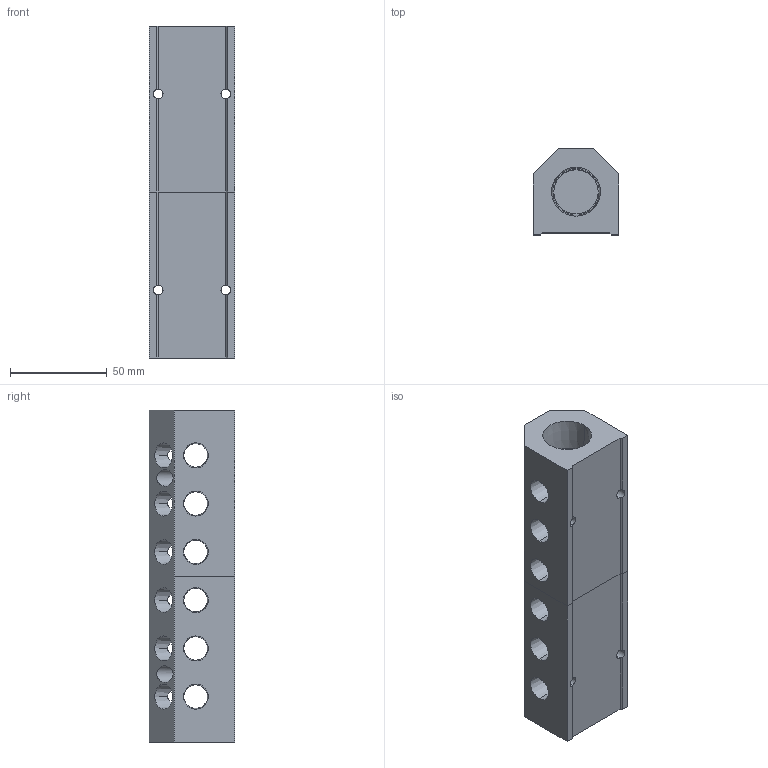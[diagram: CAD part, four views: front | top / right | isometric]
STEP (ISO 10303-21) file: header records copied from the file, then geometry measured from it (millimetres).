
FILE_DESCRIPTION (( 'STEP AP214' ), '1' );
FILE_NAME ('ALM6ABCDE-N4N12-172RB.step', '2022-02-06T14:18:44', ( '' ), ( '' ), 'SwSTEP 2.0', 'SolidWorks 2020', '' );
FILE_SCHEMA (( 'AUTOMOTIVE_DESIGN' ));
Length unit declared in the file: millimetre
Products named in the file (1): ALM6ABCDE-N4N12-172RB
Bounding box: 44.5 x 44.5 x 172 mm (x, y, z)
Volume: 187525.1 mm3; surface area: 55489.7 mm2
Topology: 2 solids, 2 shells, 439 faces, 1264 edges, 840 vertices
Faces by surface type: plane 267, cone 74, bspline 62, cylinder 36
Entity records: 24828 total; most frequent: CARTESIAN_POINT 9726, ORIENTED_EDGE 2528, DIRECTION 1804, EDGE_CURVE 1264, VERTEX_POINT 840, LINE 808, VECTOR 808, EDGE_LOOP 518
